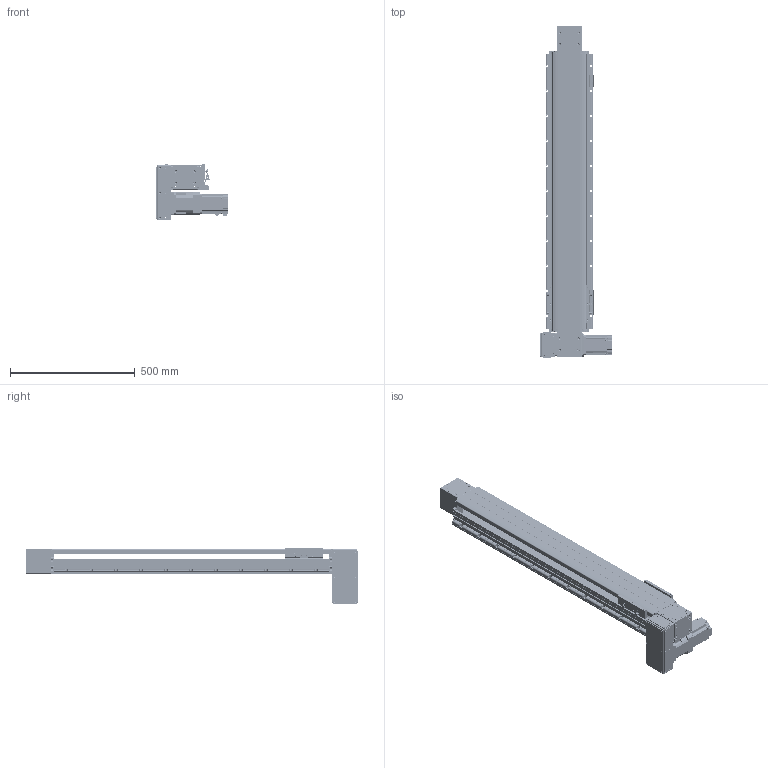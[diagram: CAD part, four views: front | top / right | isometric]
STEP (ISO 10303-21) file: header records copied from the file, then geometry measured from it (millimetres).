
FILE_DESCRIPTION(/* description */ (''),/* implementation_level */ '2;1');
FILE_NAME(/* name */ '\\192.168.0.160\disk1\HAN SHIN Master\B-설계부문\C-표준\B-2024년\BC02-표준도면\+로봇 개선표준도면\홈페이지 표준 도면\홈페이지 최종 작업 폴더\3D\HB\HB160-DL7G-N-0900-R.stp',/* time_stamp */ '2025-01-14T08:57:36+09:00',/* author */ ('user'),/* organization */ (''),/* preprocessor_version */ 'ST-DEVELOPER v18.1',/* originating_system */ 'Autodesk Inventor 2022',/* authorisation */ '');
FILE_SCHEMA (('AUTOMOTIVE_DESIGN { 1 0 10303 214 3 1 1 }'));
Products named in the file (41): HSB160-DL7G-N-0500-R; BASE; HSB160 TABLE (TEST); FORNT HOUSUNG-1 (Connecting); UPCOVER; HSB160 COVER-1; REAR HOUSUNG-1---; HSB160 REAR SHAFT-2; REAR SHAFT--2; 6004ZZ; 6004ZZ Outer ring; 6004ZZ Shield1; 6004ZZ Inner ring; 6004ZZ Ball; 6004ZZ Shield2; STOPPER3; TENSION PLATE; HSB160 ARC COVER; hsr_ftht_A-M6F_grease_nipple_joint; NIPPLE CAP(신규); hg-kr73_; PGX90-H-1_3; HSB160 BEARING OVER; HSB160 END COVER; HSB160 SHAFT-1; 6206ZZ; 6206ZZ Outer ring; 6206ZZ Shield1; 6206ZZ Inner ring; 6206ZZ Ball; 6206ZZ Shield2; HR120 SENSOR DOG; SENSOR BRK(EE-SX674A); EE_SX674A; D MOTOR PLATE ASSY; HSB160 D MOTOR PLATE; HR160 400W LR BELT COVER; 750W MOTOR PLATE; HR180 ACRYL COVER - 1; HR180 ACRYL COVER - 1_1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
Assembly tree (85 placements, depth 3):
  HSB160-DL7G-N-0500-R
    BASE
    HSB160 TABLE (TEST)
    FORNT HOUSUNG-1 (Connecting)
    UPCOVER
    HSB160 COVER-1  x2
    REAR HOUSUNG-1---
    6004ZZ  x2
      6004ZZ Outer ring
      6004ZZ Shield1
      6004ZZ Inner ring
      6004ZZ Ball
      6004ZZ Shield2
    HSB160 REAR SHAFT-2
    REAR SHAFT--2
    TENSION PLATE  x2
    HSB160 ARC COVER  x4
    STOPPER3  x4
    hsr_ftht_A-M6F_grease_nipple_joint  x4
    NIPPLE CAP(신규)  x4
    hg-kr73_
    PGX90-H-1_3
    HSB160 BEARING OVER
    HSB160 END COVER
    6206ZZ  x2
      6206ZZ Outer ring
      6206ZZ Shield1
      6206ZZ Inner ring
      6206ZZ Ball
      6206ZZ Shield2
    HSB160 SHAFT-1
    HR120 SENSOR DOG
    SENSOR BRK(EE-SX674A)  x3
    EE_SX674A  x3
    D MOTOR PLATE ASSY
      HSB160 D MOTOR PLATE
      HR160 400W LR BELT COVER
      750W MOTOR PLATE
      HR180 ACRYL COVER - 1_2  x2
      HR180 ACRYL COVER - 1
      HR180 ACRYL COVER - 1_1
Bounding box: 284.5 x 1328.5 x 226.5 mm (x, y, z)
Volume: 8722801.5 mm3; surface area: 2156513.5 mm2
Topology: 129 solids, 131 shells, 6494 faces, 17851 edges, 11736 vertices
Faces by surface type: plane 4558, cylinder 1391, cone 373, sphere 88, torus 59, bspline 25
Full cylindrical faces by diameter (mm): 2.013 x2, 2.459 x54, 3 x20, 3.242 x42, 3.4 x22, 3.5 x6, 4.134 x18, 4.2 x4, 4.5 x40, 4.917 x80, 5 x44, 5.1 x1, 5.5 x25, 5.6 x4, 5.9 x4, 6 x21, 6.5 x9, 6.6 x18, 6.8 x9, 7 x32, 7.6 x4, 8 x5, 8.376 x22, 8.433 x2, 9 x4, 9.5 x31, 10 x5, 11 x28, 15 x8, 18.5 x2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
Entity records: 119503 total; most frequent: CARTESIAN_POINT 22632, DIRECTION 19886, ORIENTED_EDGE 19294, EDGE_CURVE 9647, AXIS2_PLACEMENT_3D 6765, VERTEX_POINT 6377, LINE 6356, VECTOR 6356
